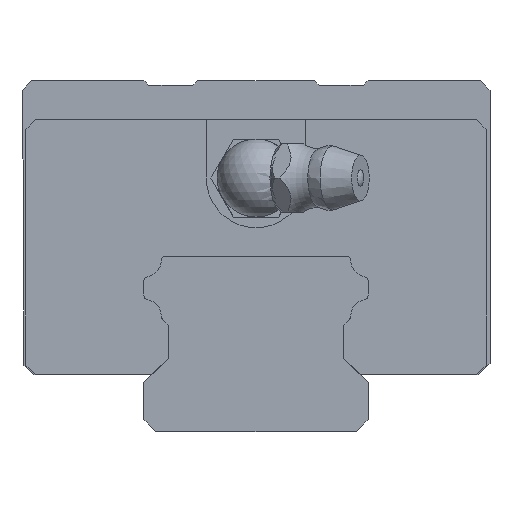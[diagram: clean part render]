
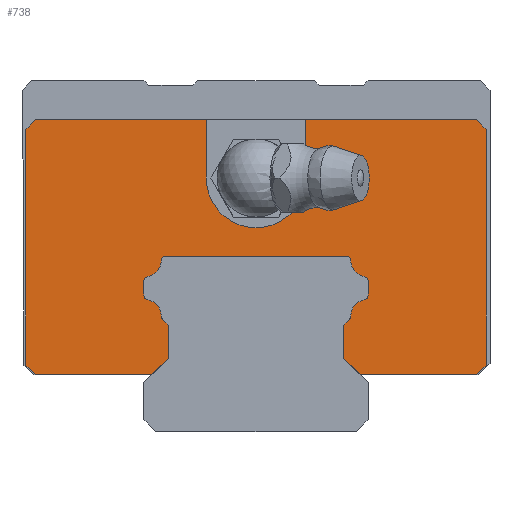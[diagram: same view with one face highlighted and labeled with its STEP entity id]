
A CAD part, front view. The second image highlights one B-rep face of the part: STEP entity #738.
In plain terms, the highlighted planar face has unit normal (0, -1, 0).
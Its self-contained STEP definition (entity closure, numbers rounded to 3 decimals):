
#550=CIRCLE('',#3340,0.5);
#552=CIRCLE('',#3343,1.7);
#554=CIRCLE('',#3346,0.5);
#556=CIRCLE('',#3353,0.5);
#558=CIRCLE('',#3356,1.7);
#560=CIRCLE('',#3359,0.5);
#562=CIRCLE('',#3363,0.5);
#564=CIRCLE('',#3366,1.7);
#566=CIRCLE('',#3369,0.5);
#568=CIRCLE('',#3373,0.5);
#570=CIRCLE('',#3376,1.7);
#572=CIRCLE('',#3379,0.5);
#591=CIRCLE('',#3430,5.1);
#738=ADVANCED_FACE('',(#978),#863,.T.);
#863=PLANE('',#3431);
#978=FACE_OUTER_BOUND('',#1175,.T.);
#1175=EDGE_LOOP('',(#1743,#1744,#1745,#1746,#1747,#1748,#1749,#1750,#1751,
#1752,#1753,#1754,#1755,#1756,#1757,#1758,#1759,#1760,#1761,#1762,#1763,
#1764,#1765,#1766,#1767,#1768,#1769,#1770,#1771,#1772,#1773,#1774,#1775,
#1776));
#1743=ORIENTED_EDGE('',*,*,#2570,.F.);
#1744=ORIENTED_EDGE('',*,*,#2529,.F.);
#1745=ORIENTED_EDGE('',*,*,#2526,.F.);
#1746=ORIENTED_EDGE('',*,*,#2523,.F.);
#1747=ORIENTED_EDGE('',*,*,#2520,.F.);
#1748=ORIENTED_EDGE('',*,*,#2517,.F.);
#1749=ORIENTED_EDGE('',*,*,#2514,.F.);
#1750=ORIENTED_EDGE('',*,*,#2568,.F.);
#1751=ORIENTED_EDGE('',*,*,#2566,.F.);
#1752=ORIENTED_EDGE('',*,*,#2563,.F.);
#1753=ORIENTED_EDGE('',*,*,#2560,.F.);
#1754=ORIENTED_EDGE('',*,*,#2557,.F.);
#1755=ORIENTED_EDGE('',*,*,#2554,.F.);
#1756=ORIENTED_EDGE('',*,*,#2551,.F.);
#1757=ORIENTED_EDGE('',*,*,#2548,.F.);
#1758=ORIENTED_EDGE('',*,*,#2545,.F.);
#1759=ORIENTED_EDGE('',*,*,#2542,.F.);
#1760=ORIENTED_EDGE('',*,*,#2539,.F.);
#1761=ORIENTED_EDGE('',*,*,#2536,.F.);
#1762=ORIENTED_EDGE('',*,*,#2533,.F.);
#1763=ORIENTED_EDGE('',*,*,#2572,.F.);
#1764=ORIENTED_EDGE('',*,*,#2487,.T.);
#1765=ORIENTED_EDGE('',*,*,#2590,.T.);
#1766=ORIENTED_EDGE('',*,*,#2587,.T.);
#1767=ORIENTED_EDGE('',*,*,#2592,.T.);
#1768=ORIENTED_EDGE('',*,*,#2598,.T.);
#1769=ORIENTED_EDGE('',*,*,#2608,.F.);
#1770=ORIENTED_EDGE('',*,*,#2609,.F.);
#1771=ORIENTED_EDGE('',*,*,#2610,.F.);
#1772=ORIENTED_EDGE('',*,*,#2594,.T.);
#1773=ORIENTED_EDGE('',*,*,#2599,.T.);
#1774=ORIENTED_EDGE('',*,*,#2583,.T.);
#1775=ORIENTED_EDGE('',*,*,#2589,.T.);
#1776=ORIENTED_EDGE('',*,*,#2483,.T.);
#2171=VERTEX_POINT('',#4699);
#2172=VERTEX_POINT('',#4701);
#2173=VERTEX_POINT('',#4706);
#2174=VERTEX_POINT('',#4708);
#2182=VERTEX_POINT('',#4758);
#2184=VERTEX_POINT('',#4762);
#2186=VERTEX_POINT('',#4767);
#2188=VERTEX_POINT('',#4773);
#2190=VERTEX_POINT('',#4779);
#2192=VERTEX_POINT('',#4785);
#2194=VERTEX_POINT('',#4791);
#2196=VERTEX_POINT('',#4797);
#2198=VERTEX_POINT('',#4801);
#2200=VERTEX_POINT('',#4806);
#2202=VERTEX_POINT('',#4812);
#2204=VERTEX_POINT('',#4818);
#2206=VERTEX_POINT('',#4824);
#2208=VERTEX_POINT('',#4830);
#2210=VERTEX_POINT('',#4836);
#2212=VERTEX_POINT('',#4842);
#2214=VERTEX_POINT('',#4848);
#2216=VERTEX_POINT('',#4854);
#2218=VERTEX_POINT('',#4860);
#2220=VERTEX_POINT('',#4866);
#2234=VERTEX_POINT('',#4914);
#2235=VERTEX_POINT('',#4916);
#2237=VERTEX_POINT('',#4922);
#2238=VERTEX_POINT('',#4924);
#2239=VERTEX_POINT('',#4932);
#2240=VERTEX_POINT('',#4936);
#2241=VERTEX_POINT('',#4938);
#2244=VERTEX_POINT('',#4944);
#2253=VERTEX_POINT('',#4976);
#2254=VERTEX_POINT('',#4978);
#2483=EDGE_CURVE('',#2172,#2171,#2836,.T.);
#2487=EDGE_CURVE('',#2174,#2173,#2840,.T.);
#2514=EDGE_CURVE('',#2184,#2182,#2863,.T.);
#2517=EDGE_CURVE('',#2182,#2186,#550,.T.);
#2520=EDGE_CURVE('',#2186,#2188,#552,.T.);
#2523=EDGE_CURVE('',#2188,#2190,#554,.T.);
#2526=EDGE_CURVE('',#2190,#2192,#2869,.T.);
#2529=EDGE_CURVE('',#2192,#2194,#2872,.T.);
#2533=EDGE_CURVE('',#2198,#2196,#2876,.T.);
#2536=EDGE_CURVE('',#2196,#2200,#2879,.T.);
#2539=EDGE_CURVE('',#2200,#2202,#556,.T.);
#2542=EDGE_CURVE('',#2202,#2204,#558,.T.);
#2545=EDGE_CURVE('',#2204,#2206,#560,.T.);
#2548=EDGE_CURVE('',#2206,#2208,#2885,.T.);
#2551=EDGE_CURVE('',#2208,#2210,#562,.T.);
#2554=EDGE_CURVE('',#2210,#2212,#564,.T.);
#2557=EDGE_CURVE('',#2212,#2214,#566,.T.);
#2560=EDGE_CURVE('',#2214,#2216,#2891,.T.);
#2563=EDGE_CURVE('',#2216,#2218,#568,.T.);
#2566=EDGE_CURVE('',#2218,#2220,#570,.T.);
#2568=EDGE_CURVE('',#2220,#2184,#572,.T.);
#2570=EDGE_CURVE('',#2194,#2171,#2895,.T.);
#2572=EDGE_CURVE('',#2174,#2198,#2897,.T.);
#2583=EDGE_CURVE('',#2235,#2234,#2899,.T.);
#2587=EDGE_CURVE('',#2238,#2237,#2902,.T.);
#2589=EDGE_CURVE('',#2234,#2172,#2904,.T.);
#2590=EDGE_CURVE('',#2173,#2238,#2905,.T.);
#2592=EDGE_CURVE('',#2237,#2239,#2907,.T.);
#2594=EDGE_CURVE('',#2241,#2240,#2909,.T.);
#2598=EDGE_CURVE('',#2239,#2244,#2913,.T.);
#2599=EDGE_CURVE('',#2240,#2235,#2914,.T.);
#2608=EDGE_CURVE('',#2253,#2244,#2915,.T.);
#2609=EDGE_CURVE('',#2254,#2253,#591,.T.);
#2610=EDGE_CURVE('',#2241,#2254,#2916,.T.);
#2836=LINE('',#4700,#3088);
#2840=LINE('',#4707,#3092);
#2863=LINE('',#4763,#3115);
#2869=LINE('',#4787,#3121);
#2872=LINE('',#4793,#3124);
#2876=LINE('',#4802,#3128);
#2879=LINE('',#4808,#3131);
#2885=LINE('',#4832,#3137);
#2891=LINE('',#4856,#3143);
#2895=LINE('',#4874,#3147);
#2897=LINE('',#4877,#3149);
#2899=LINE('',#4915,#3151);
#2902=LINE('',#4923,#3154);
#2904=LINE('',#4927,#3156);
#2905=LINE('',#4929,#3157);
#2907=LINE('',#4933,#3159);
#2909=LINE('',#4937,#3161);
#2913=LINE('',#4945,#3165);
#2914=LINE('',#4947,#3166);
#2915=LINE('',#4975,#3167);
#2916=LINE('',#4979,#3168);
#3088=VECTOR('',#3804,1.);
#3092=VECTOR('',#3810,1.);
#3115=VECTOR('',#3877,1.);
#3121=VECTOR('',#3903,1.);
#3124=VECTOR('',#3908,1.);
#3128=VECTOR('',#3914,1.);
#3131=VECTOR('',#3919,1.);
#3137=VECTOR('',#3945,1.);
#3143=VECTOR('',#3971,1.);
#3147=VECTOR('',#3995,1.);
#3149=VECTOR('',#3999,1.);
#3151=VECTOR('',#4045,1.);
#3154=VECTOR('',#4052,1.);
#3156=VECTOR('',#4056,1.);
#3157=VECTOR('',#4059,1.);
#3159=VECTOR('',#4063,1.);
#3161=VECTOR('',#4067,1.);
#3165=VECTOR('',#4071,1.);
#3166=VECTOR('',#4074,1.);
#3167=VECTOR('',#4113,1.);
#3168=VECTOR('',#4116,1.);
#3340=AXIS2_PLACEMENT_3D('',#4769,#3883,#3884);
#3343=AXIS2_PLACEMENT_3D('',#4775,#3890,#3891);
#3346=AXIS2_PLACEMENT_3D('',#4781,#3897,#3898);
#3353=AXIS2_PLACEMENT_3D('',#4814,#3925,#3926);
#3356=AXIS2_PLACEMENT_3D('',#4820,#3932,#3933);
#3359=AXIS2_PLACEMENT_3D('',#4826,#3939,#3940);
#3363=AXIS2_PLACEMENT_3D('',#4838,#3951,#3952);
#3366=AXIS2_PLACEMENT_3D('',#4844,#3958,#3959);
#3369=AXIS2_PLACEMENT_3D('',#4850,#3965,#3966);
#3373=AXIS2_PLACEMENT_3D('',#4862,#3977,#3978);
#3376=AXIS2_PLACEMENT_3D('',#4868,#3984,#3985);
#3379=AXIS2_PLACEMENT_3D('',#4871,#3990,#3991);
#3430=AXIS2_PLACEMENT_3D('',#4977,#4114,#4115);
#3431=AXIS2_PLACEMENT_3D('',#4980,#4117,#4118);
#3804=DIRECTION('',(1.,0.,0.));
#3810=DIRECTION('',(1.,0.,0.));
#3877=DIRECTION('',(0.,0.,-1.));
#3883=DIRECTION('',(0.,-1.,0.));
#3884=DIRECTION('',(0.,0.,-1.));
#3890=DIRECTION('',(0.,1.,0.));
#3891=DIRECTION('',(0.,0.,-1.));
#3897=DIRECTION('',(0.,-1.,0.));
#3898=DIRECTION('',(0.,0.,-1.));
#3903=DIRECTION('',(0.707,0.,-0.707));
#3908=DIRECTION('',(0.,0.,-1.));
#3914=DIRECTION('',(0.,0.,1.));
#3919=DIRECTION('',(0.707,0.,0.707));
#3925=DIRECTION('',(0.,-1.,0.));
#3926=DIRECTION('',(0.,0.,-1.));
#3932=DIRECTION('',(0.,1.,0.));
#3933=DIRECTION('',(0.,0.,-1.));
#3939=DIRECTION('',(0.,-1.,0.));
#3940=DIRECTION('',(0.,0.,-1.));
#3945=DIRECTION('',(0.,0.,1.));
#3951=DIRECTION('',(0.,-1.,0.));
#3952=DIRECTION('',(0.,0.,-1.));
#3958=DIRECTION('',(0.,1.,0.));
#3959=DIRECTION('',(0.,0.,-1.));
#3965=DIRECTION('',(0.,-1.,0.));
#3966=DIRECTION('',(0.,0.,-1.));
#3971=DIRECTION('',(-1.,0.,0.));
#3977=DIRECTION('',(0.,-1.,0.));
#3978=DIRECTION('',(0.,0.,-1.));
#3984=DIRECTION('',(0.,1.,0.));
#3985=DIRECTION('',(0.,0.,-1.));
#3990=DIRECTION('',(0.,-1.,0.));
#3991=DIRECTION('',(0.,0.,-1.));
#3995=DIRECTION('',(-0.707,0.,-0.707));
#3999=DIRECTION('',(-0.707,0.,0.707));
#4045=DIRECTION('',(0.,0.,-1.));
#4052=DIRECTION('',(0.,0.,1.));
#4056=DIRECTION('',(0.707,0.,-0.707));
#4059=DIRECTION('',(0.707,0.,0.707));
#4063=DIRECTION('',(-0.707,0.,0.707));
#4067=DIRECTION('',(-1.,0.,0.));
#4071=DIRECTION('',(-1.,0.,0.));
#4074=DIRECTION('',(-0.707,0.,-0.707));
#4113=DIRECTION('',(0.,0.,1.));
#4114=DIRECTION('',(0.,-1.,0.));
#4115=DIRECTION('',(1.,0.,0.));
#4116=DIRECTION('',(0.,0.,-1.));
#4117=DIRECTION('',(0.,-1.,0.));
#4118=DIRECTION('',(0.,0.,-1.));
#4699=CARTESIAN_POINT('',(-10.7,-19.,5.8));
#4700=CARTESIAN_POINT('',(-22.6,-19.,5.8));
#4701=CARTESIAN_POINT('',(-22.6,-19.,5.8));
#4706=CARTESIAN_POINT('',(22.6,-19.,5.8));
#4707=CARTESIAN_POINT('',(-22.6,-19.,5.8));
#4708=CARTESIAN_POINT('',(10.7,-19.,5.8));
#4758=CARTESIAN_POINT('',(-11.5,-19.,13.995));
#4762=CARTESIAN_POINT('',(-11.5,-19.,15.412));
#4763=CARTESIAN_POINT('',(-11.5,-19.,26.));
#4767=CARTESIAN_POINT('',(-11.097,-19.,13.504));
#4769=CARTESIAN_POINT('',(-11.,-19.,13.995));
#4773=CARTESIAN_POINT('',(-9.726,-19.,11.834));
#4775=CARTESIAN_POINT('',(-11.426,-19.,11.836));
#4779=CARTESIAN_POINT('',(-9.58,-19.,11.48));
#4781=CARTESIAN_POINT('',(-9.226,-19.,11.833));
#4785=CARTESIAN_POINT('',(-9.,-19.,10.9));
#4787=CARTESIAN_POINT('',(-12.05,-19.,13.95));
#4791=CARTESIAN_POINT('',(-9.,-19.,7.5));
#4793=CARTESIAN_POINT('',(-9.,-19.,26.));
#4797=CARTESIAN_POINT('',(9.,-19.,10.9));
#4801=CARTESIAN_POINT('',(9.,-19.,7.5));
#4802=CARTESIAN_POINT('',(9.,-19.,26.));
#4806=CARTESIAN_POINT('',(9.58,-19.,11.48));
#4808=CARTESIAN_POINT('',(12.05,-19.,13.95));
#4812=CARTESIAN_POINT('',(9.726,-19.,11.834));
#4814=CARTESIAN_POINT('',(9.226,-19.,11.833));
#4818=CARTESIAN_POINT('',(11.097,-19.,13.504));
#4820=CARTESIAN_POINT('',(11.426,-19.,11.836));
#4824=CARTESIAN_POINT('',(11.5,-19.,13.995));
#4826=CARTESIAN_POINT('',(11.,-19.,13.995));
#4830=CARTESIAN_POINT('',(11.5,-19.,15.412));
#4832=CARTESIAN_POINT('',(11.5,-19.,26.));
#4836=CARTESIAN_POINT('',(11.097,-19.,15.902));
#4838=CARTESIAN_POINT('',(11.,-19.,15.412));
#4842=CARTESIAN_POINT('',(9.727,-19.,17.516));
#4844=CARTESIAN_POINT('',(11.426,-19.,17.57));
#4848=CARTESIAN_POINT('',(9.227,-19.,18.));
#4850=CARTESIAN_POINT('',(9.227,-19.,17.5));
#4854=CARTESIAN_POINT('',(-9.227,-19.,18.));
#4856=CARTESIAN_POINT('',(0.,-19.,18.));
#4860=CARTESIAN_POINT('',(-9.727,-19.,17.516));
#4862=CARTESIAN_POINT('',(-9.227,-19.,17.5));
#4866=CARTESIAN_POINT('',(-11.097,-19.,15.902));
#4868=CARTESIAN_POINT('',(-11.426,-19.,17.57));
#4871=CARTESIAN_POINT('',(-11.,-19.,15.412));
#4874=CARTESIAN_POINT('',(4.75,-19.,21.25));
#4877=CARTESIAN_POINT('',(-4.75,-19.,21.25));
#4914=CARTESIAN_POINT('',(-23.6,-19.,6.8));
#4915=CARTESIAN_POINT('',(-23.6,-19.,31.));
#4916=CARTESIAN_POINT('',(-23.6,-19.,31.));
#4922=CARTESIAN_POINT('',(23.6,-19.,31.));
#4923=CARTESIAN_POINT('',(23.6,-19.,6.8));
#4924=CARTESIAN_POINT('',(23.6,-19.,6.8));
#4927=CARTESIAN_POINT('',(-23.6,-19.,6.8));
#4929=CARTESIAN_POINT('',(22.6,-19.,5.8));
#4932=CARTESIAN_POINT('',(22.6,-19.,32.));
#4933=CARTESIAN_POINT('',(23.6,-19.,31.));
#4936=CARTESIAN_POINT('',(-22.6,-19.,32.));
#4937=CARTESIAN_POINT('',(22.6,-19.,32.));
#4938=CARTESIAN_POINT('',(-5.1,-19.,32.));
#4944=CARTESIAN_POINT('',(5.1,-19.,32.));
#4945=CARTESIAN_POINT('',(22.6,-19.,32.));
#4947=CARTESIAN_POINT('',(-22.6,-19.,32.));
#4975=CARTESIAN_POINT('',(5.1,-19.,26.));
#4976=CARTESIAN_POINT('',(5.1,-19.,26.));
#4977=CARTESIAN_POINT('',(0.,-19.,26.));
#4978=CARTESIAN_POINT('',(-5.1,-19.,26.));
#4979=CARTESIAN_POINT('',(-5.1,-19.,32.));
#4980=CARTESIAN_POINT('',(0.,-19.,26.));
